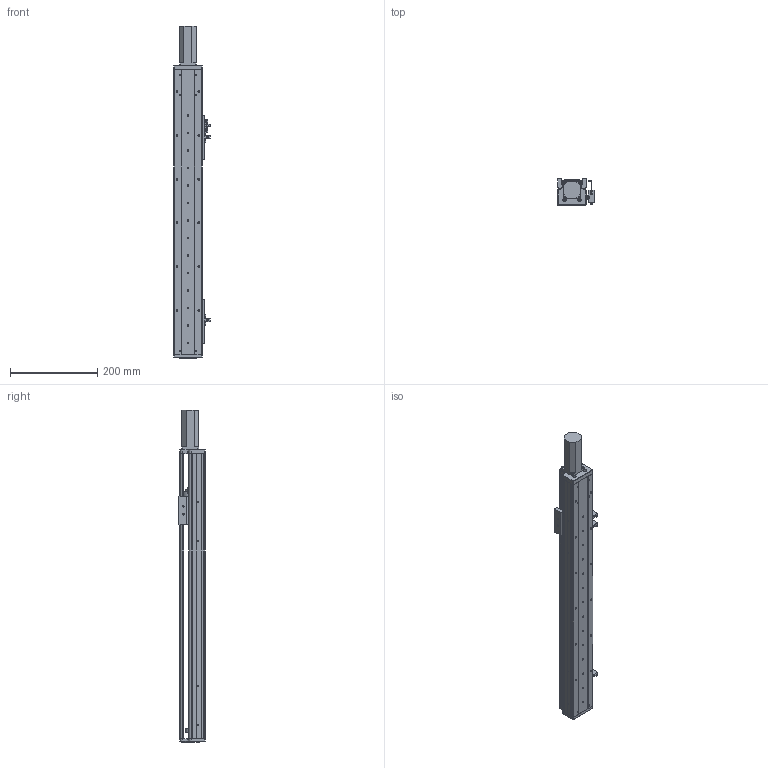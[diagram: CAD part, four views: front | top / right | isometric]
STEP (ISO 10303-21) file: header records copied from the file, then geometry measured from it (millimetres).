
FILE_DESCRIPTION (( 'STEP AP203' ), '1' );
FILE_NAME ('RY60-L1210-300-MK.SLDASM_450.step', '2021-02-20T01:55:56', ( '' ), ( '' ), 'SwSTEP 2.0', 'SolidWorks 2012', '' );
FILE_SCHEMA (( 'CONFIG_CONTROL_DESIGN' ));
Length unit declared in the file: millimetre
Products named in the file (13): RY60-L1210-300-MK.SLDASM_450; SFN1210螺母(没线割）; RY60綴裔啣; 滅袉蝶18-10; 滅袉蝶18-20; 侂狟100W; 覜茼ん672; RY80俋离覜茼え; 672嫖萇羲壽假蚾釱; RY60前盖板100(PCD46-M4); RY60臏賑輸; RY60-300倰第裔啣-MK_450; RY60-300倰第菁釱-MK_450
Assembly tree (17 placements, depth 2):
  RY60-L1210-300-MK.SLDASM_450
    RY60-300倰第菁釱-MK_450
    RY60臏賑輸
    RY60-300倰第裔啣-MK_450
    RY60前盖板100(PCD46-M4)
    672嫖萇羲壽假蚾釱  x2
    覜茼ん672  x3
    RY80俋离覜茼え
    侂狟100W
    滅袉蝶18-20  x2
    滅袉蝶18-10  x2
    RY60綴裔啣
    SFN1210螺母(没线割）
Bounding box: 83.7 x 61 x 759 mm (x, y, z)
Volume: 885604.6 mm3; surface area: 425462.2 mm2
Topology: 18 solids, 18 shells, 1129 faces, 3176 edges, 2054 vertices
Faces by surface type: plane 541, cylinder 516, cone 63, bspline 9
Entity records: 36576 total; most frequent: CARTESIAN_POINT 8654, ORIENTED_EDGE 5616, DIRECTION 5423, EDGE_CURVE 2808, AXIS2_PLACEMENT_3D 1881, VERTEX_POINT 1838, VECTOR 1661, LINE 1661
